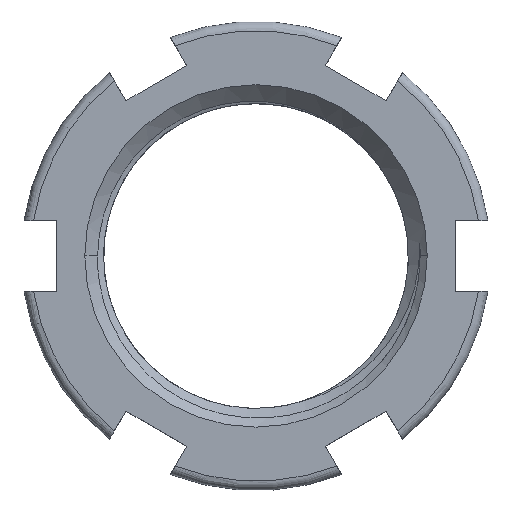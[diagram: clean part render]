
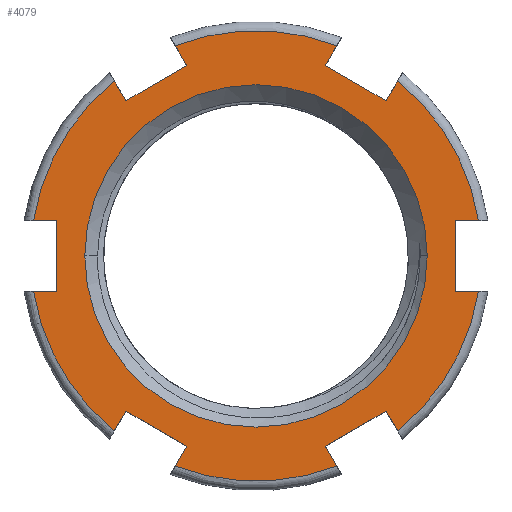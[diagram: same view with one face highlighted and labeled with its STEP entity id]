
A CAD part, top view. The second image highlights one B-rep face of the part: STEP entity #4079.
In plain terms, the highlighted planar face has unit normal (0, 0, 1).
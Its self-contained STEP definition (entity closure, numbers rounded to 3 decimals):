
#1214=CARTESIAN_POINT('',(0.,0.,1.25));
#1215=DIRECTION('',(0.,0.,-1.));
#1216=DIRECTION('',(-1.,0.,0.));
#1217=AXIS2_PLACEMENT_3D('',#1214,#1215,#1216);
#1365=CARTESIAN_POINT('',(0.,0.,1.25));
#1366=DIRECTION('',(0.,0.,-1.));
#1367=DIRECTION('',(1.,0.,0.));
#1368=AXIS2_PLACEMENT_3D('',#1365,#1366,#1367);
#1373=DIRECTION('',(-1.,0.,0.));
#1374=VECTOR('',#1373,0.491);
#1375=CARTESIAN_POINT('',(4.741,0.75,1.25));
#1376=LINE('',#1375,#1374);
#1380=DIRECTION('',(0.,-1.,0.));
#1381=VECTOR('',#1380,1.5);
#1382=CARTESIAN_POINT('',(4.25,0.75,1.25));
#1383=LINE('',#1382,#1381);
#1387=DIRECTION('',(-1.,0.,0.));
#1388=VECTOR('',#1387,0.491);
#1389=CARTESIAN_POINT('',(4.741,-0.75,1.25));
#1390=LINE('',#1389,#1388);
#1394=DIRECTION('',(-0.5,0.866,0.));
#1395=VECTOR('',#1394,0.491);
#1396=CARTESIAN_POINT('',(3.02,-3.731,1.25));
#1397=LINE('',#1396,#1395);
#1401=DIRECTION('',(-0.866,-0.5,0.));
#1402=VECTOR('',#1401,1.5);
#1403=CARTESIAN_POINT('',(2.775,-3.306,1.25));
#1404=LINE('',#1403,#1402);
#1408=DIRECTION('',(0.5,-0.866,0.));
#1409=VECTOR('',#1408,0.491);
#1410=CARTESIAN_POINT('',(1.475,-4.056,1.25));
#1411=LINE('',#1410,#1409);
#1415=DIRECTION('',(0.5,0.866,0.));
#1416=VECTOR('',#1415,0.491);
#1417=CARTESIAN_POINT('',(-1.721,-4.481,1.25));
#1418=LINE('',#1417,#1416);
#1422=DIRECTION('',(-0.866,0.5,0.));
#1423=VECTOR('',#1422,1.5);
#1424=CARTESIAN_POINT('',(-1.475,-4.056,1.25));
#1425=LINE('',#1424,#1423);
#1429=DIRECTION('',(-0.5,-0.866,0.));
#1430=VECTOR('',#1429,0.491);
#1431=CARTESIAN_POINT('',(-2.775,-3.306,1.25));
#1432=LINE('',#1431,#1430);
#1436=DIRECTION('',(1.,0.,0.));
#1437=VECTOR('',#1436,0.491);
#1438=CARTESIAN_POINT('',(-4.741,-0.75,1.25));
#1439=LINE('',#1438,#1437);
#1443=DIRECTION('',(0.,1.,0.));
#1444=VECTOR('',#1443,1.5);
#1445=CARTESIAN_POINT('',(-4.25,-0.75,1.25));
#1446=LINE('',#1445,#1444);
#1450=DIRECTION('',(1.,0.,0.));
#1451=VECTOR('',#1450,0.491);
#1452=CARTESIAN_POINT('',(-4.741,0.75,1.25));
#1453=LINE('',#1452,#1451);
#1457=DIRECTION('',(0.5,-0.866,0.));
#1458=VECTOR('',#1457,0.491);
#1459=CARTESIAN_POINT('',(-3.02,3.731,1.25));
#1460=LINE('',#1459,#1458);
#1464=DIRECTION('',(0.866,0.5,0.));
#1465=VECTOR('',#1464,1.5);
#1466=CARTESIAN_POINT('',(-2.775,3.306,1.25));
#1467=LINE('',#1466,#1465);
#1471=DIRECTION('',(-0.5,0.866,0.));
#1472=VECTOR('',#1471,0.491);
#1473=CARTESIAN_POINT('',(-1.475,4.056,1.25));
#1474=LINE('',#1473,#1472);
#1478=DIRECTION('',(-0.5,-0.866,0.));
#1479=VECTOR('',#1478,0.491);
#1480=CARTESIAN_POINT('',(1.721,4.481,1.25));
#1481=LINE('',#1480,#1479);
#1485=DIRECTION('',(0.866,-0.5,0.));
#1486=VECTOR('',#1485,1.5);
#1487=CARTESIAN_POINT('',(1.475,4.056,1.25));
#1488=LINE('',#1487,#1486);
#1492=DIRECTION('',(0.5,0.866,0.));
#1493=VECTOR('',#1492,0.491);
#1494=CARTESIAN_POINT('',(2.775,3.306,1.25));
#1495=LINE('',#1494,#1493);
#1850=CARTESIAN_POINT('',(0.,0.,1.25));
#1851=DIRECTION('',(0.,0.,1.));
#1852=DIRECTION('',(0.359,0.934,0.));
#1853=AXIS2_PLACEMENT_3D('',#1850,#1851,#1852);
#1892=CARTESIAN_POINT('',(0.,0.,1.25));
#1893=DIRECTION('',(0.,0.,1.));
#1894=DIRECTION('',(-0.629,0.777,0.));
#1895=AXIS2_PLACEMENT_3D('',#1892,#1893,#1894);
#1934=CARTESIAN_POINT('',(0.,0.,1.25));
#1935=DIRECTION('',(0.,0.,1.));
#1936=DIRECTION('',(-0.988,-0.156,0.));
#1937=AXIS2_PLACEMENT_3D('',#1934,#1935,#1936);
#1976=CARTESIAN_POINT('',(0.,0.,1.25));
#1977=DIRECTION('',(0.,0.,1.));
#1978=DIRECTION('',(-0.359,-0.934,0.));
#1979=AXIS2_PLACEMENT_3D('',#1976,#1977,#1978);
#1997=CARTESIAN_POINT('',(0.,0.,1.25));
#1998=DIRECTION('',(0.,0.,1.));
#1999=DIRECTION('',(0.988,0.156,0.));
#2000=AXIS2_PLACEMENT_3D('',#1997,#1998,#1999);
#2060=CARTESIAN_POINT('',(0.,0.,1.25));
#2061=DIRECTION('',(0.,0.,1.));
#2062=DIRECTION('',(0.629,-0.777,0.));
#2063=AXIS2_PLACEMENT_3D('',#2060,#2061,#2062);
#2555=CARTESIAN_POINT('',(1.721,4.481,1.25));
#2556=CARTESIAN_POINT('',(1.475,4.056,1.25));
#2557=VERTEX_POINT('',#2555);
#2558=VERTEX_POINT('',#2556);
#2559=CARTESIAN_POINT('',(2.775,3.306,1.25));
#2560=VERTEX_POINT('',#2559);
#2561=CARTESIAN_POINT('',(3.02,3.731,1.25));
#2562=VERTEX_POINT('',#2561);
#2579=CARTESIAN_POINT('',(3.65,0.,1.25));
#2580=CARTESIAN_POINT('',(-3.65,0.,1.25));
#2581=VERTEX_POINT('',#2579);
#2582=VERTEX_POINT('',#2580);
#2599=CARTESIAN_POINT('',(-3.02,3.731,1.25));
#2600=CARTESIAN_POINT('',(-2.775,3.306,1.25));
#2601=VERTEX_POINT('',#2599);
#2602=VERTEX_POINT('',#2600);
#2603=CARTESIAN_POINT('',(-1.475,4.056,1.25));
#2604=VERTEX_POINT('',#2603);
#2605=CARTESIAN_POINT('',(-1.721,4.481,1.25));
#2606=VERTEX_POINT('',#2605);
#2627=CARTESIAN_POINT('',(-4.741,-0.75,1.25));
#2628=CARTESIAN_POINT('',(-4.25,-0.75,1.25));
#2629=VERTEX_POINT('',#2627);
#2630=VERTEX_POINT('',#2628);
#2631=CARTESIAN_POINT('',(-4.25,0.75,1.25));
#2632=VERTEX_POINT('',#2631);
#2633=CARTESIAN_POINT('',(-4.741,0.75,1.25));
#2634=VERTEX_POINT('',#2633);
#2655=CARTESIAN_POINT('',(-1.721,-4.481,1.25));
#2656=CARTESIAN_POINT('',(-1.475,-4.056,1.25));
#2657=VERTEX_POINT('',#2655);
#2658=VERTEX_POINT('',#2656);
#2659=CARTESIAN_POINT('',(-2.775,-3.306,1.25));
#2660=VERTEX_POINT('',#2659);
#2661=CARTESIAN_POINT('',(-3.02,-3.731,1.25));
#2662=VERTEX_POINT('',#2661);
#2683=CARTESIAN_POINT('',(3.02,-3.731,1.25));
#2684=CARTESIAN_POINT('',(2.775,-3.306,1.25));
#2685=VERTEX_POINT('',#2683);
#2686=VERTEX_POINT('',#2684);
#2687=CARTESIAN_POINT('',(1.475,-4.056,1.25));
#2688=VERTEX_POINT('',#2687);
#2689=CARTESIAN_POINT('',(1.721,-4.481,1.25));
#2690=VERTEX_POINT('',#2689);
#2711=CARTESIAN_POINT('',(4.741,0.75,1.25));
#2712=CARTESIAN_POINT('',(4.25,0.75,1.25));
#2713=VERTEX_POINT('',#2711);
#2714=VERTEX_POINT('',#2712);
#2715=CARTESIAN_POINT('',(4.25,-0.75,1.25));
#2716=VERTEX_POINT('',#2715);
#2717=CARTESIAN_POINT('',(4.741,-0.75,1.25));
#2718=VERTEX_POINT('',#2717);
#4020=CARTESIAN_POINT('',(0.,0.,1.25));
#4021=DIRECTION('',(0.,0.,1.));
#4022=DIRECTION('',(1.,0.,0.));
#4023=AXIS2_PLACEMENT_3D('',#4020,#4021,#4022);
#4024=PLANE('',#4023);
#4026=ORIENTED_EDGE('',*,*,#4025,.T.);
#4028=ORIENTED_EDGE('',*,*,#4027,.T.);
#4030=ORIENTED_EDGE('',*,*,#4029,.F.);
#4032=ORIENTED_EDGE('',*,*,#4031,.F.);
#4034=ORIENTED_EDGE('',*,*,#4033,.T.);
#4036=ORIENTED_EDGE('',*,*,#4035,.T.);
#4038=ORIENTED_EDGE('',*,*,#4037,.T.);
#4040=ORIENTED_EDGE('',*,*,#4039,.F.);
#4042=ORIENTED_EDGE('',*,*,#4041,.T.);
#4044=ORIENTED_EDGE('',*,*,#4043,.T.);
#4046=ORIENTED_EDGE('',*,*,#4045,.T.);
#4048=ORIENTED_EDGE('',*,*,#4047,.F.);
#4050=ORIENTED_EDGE('',*,*,#4049,.T.);
#4052=ORIENTED_EDGE('',*,*,#4051,.T.);
#4054=ORIENTED_EDGE('',*,*,#4053,.F.);
#4056=ORIENTED_EDGE('',*,*,#4055,.F.);
#4058=ORIENTED_EDGE('',*,*,#4057,.T.);
#4060=ORIENTED_EDGE('',*,*,#4059,.T.);
#4062=ORIENTED_EDGE('',*,*,#4061,.T.);
#4064=ORIENTED_EDGE('',*,*,#4063,.F.);
#4066=ORIENTED_EDGE('',*,*,#4065,.T.);
#4068=ORIENTED_EDGE('',*,*,#4067,.T.);
#4070=ORIENTED_EDGE('',*,*,#4069,.T.);
#4072=ORIENTED_EDGE('',*,*,#4071,.F.);
#4073=EDGE_LOOP('',(#4026,#4028,#4030,#4032,#4034,#4036,#4038,#4040,#4042,#4044,
#4046,#4048,#4050,#4052,#4054,#4056,#4058,#4060,#4062,#4064,#4066,#4068,#4070,
#4072));
#4074=FACE_OUTER_BOUND('',#4073,.F.);
#4075=ORIENTED_EDGE('',*,*,#3846,.F.);
#4076=ORIENTED_EDGE('',*,*,#4014,.F.);
#4077=EDGE_LOOP('',(#4075,#4076));
#4078=FACE_BOUND('',#4077,.F.);
#1218=CIRCLE('',#1217,3.65);
#1369=CIRCLE('',#1368,3.65);
#1854=CIRCLE('',#1853,4.8);
#1896=CIRCLE('',#1895,4.8);
#1938=CIRCLE('',#1937,4.8);
#1980=CIRCLE('',#1979,4.8);
#2001=CIRCLE('',#2000,4.8);
#2064=CIRCLE('',#2063,4.8);
#3846=EDGE_CURVE('',#2582,#2581,#1218,.T.);
#4014=EDGE_CURVE('',#2581,#2582,#1369,.T.);
#4025=EDGE_CURVE('',#2713,#2714,#1376,.T.);
#4027=EDGE_CURVE('',#2714,#2716,#1383,.T.);
#4029=EDGE_CURVE('',#2718,#2716,#1390,.T.);
#4031=EDGE_CURVE('',#2685,#2718,#2064,.T.);
#4033=EDGE_CURVE('',#2685,#2686,#1397,.T.);
#4035=EDGE_CURVE('',#2686,#2688,#1404,.T.);
#4037=EDGE_CURVE('',#2688,#2690,#1411,.T.);
#4039=EDGE_CURVE('',#2657,#2690,#1980,.T.);
#4041=EDGE_CURVE('',#2657,#2658,#1418,.T.);
#4043=EDGE_CURVE('',#2658,#2660,#1425,.T.);
#4045=EDGE_CURVE('',#2660,#2662,#1432,.T.);
#4047=EDGE_CURVE('',#2629,#2662,#1938,.T.);
#4049=EDGE_CURVE('',#2629,#2630,#1439,.T.);
#4051=EDGE_CURVE('',#2630,#2632,#1446,.T.);
#4053=EDGE_CURVE('',#2634,#2632,#1453,.T.);
#4055=EDGE_CURVE('',#2601,#2634,#1896,.T.);
#4057=EDGE_CURVE('',#2601,#2602,#1460,.T.);
#4059=EDGE_CURVE('',#2602,#2604,#1467,.T.);
#4061=EDGE_CURVE('',#2604,#2606,#1474,.T.);
#4063=EDGE_CURVE('',#2557,#2606,#1854,.T.);
#4065=EDGE_CURVE('',#2557,#2558,#1481,.T.);
#4067=EDGE_CURVE('',#2558,#2560,#1488,.T.);
#4069=EDGE_CURVE('',#2560,#2562,#1495,.T.);
#4071=EDGE_CURVE('',#2713,#2562,#2001,.T.);
#4079=ADVANCED_FACE('',(#4074,#4078),#4024,.T.);
